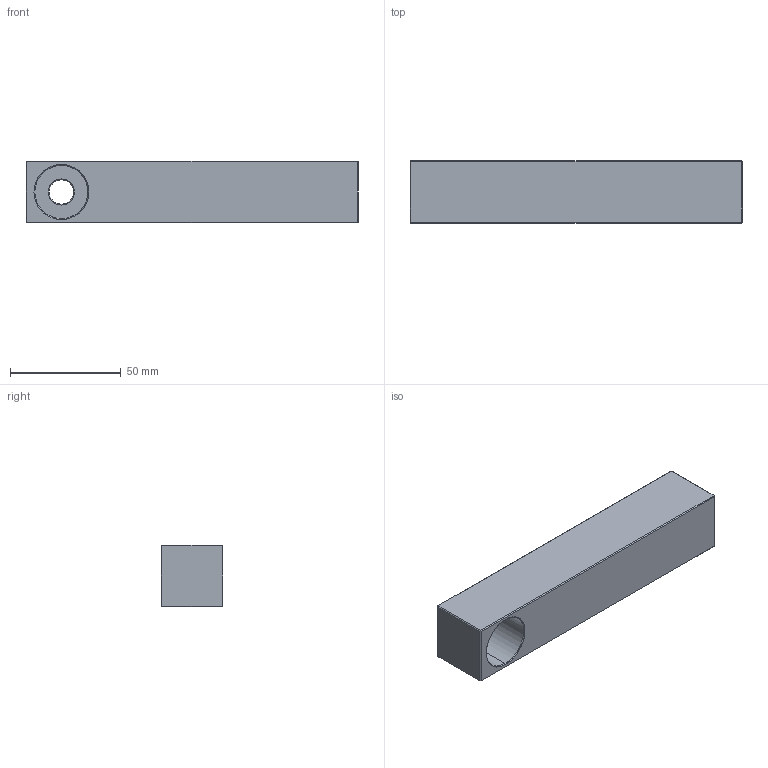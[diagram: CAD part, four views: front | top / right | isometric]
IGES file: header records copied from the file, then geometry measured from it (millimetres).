
Start section: SolidWorks IGES file using analytic representation for surfaces
Global section: file name: L:\電子カタログ-3D_STEP\WHZ0500-T.igs,   15; native system: HSolidWorks 2009; preprocessor: SolidWorks 2009; author: D211; date: 100422.003412; units: millimetre
Bounding box: 150 x 28 x 28 mm (x, y, z)
Surface area: 19817.2 mm2 (no closed solid volume)
Topology: 0 solids, 0 shells, 37 faces, 264 edges, 264 vertices
Faces by surface type: bspline 27, revolution 10
